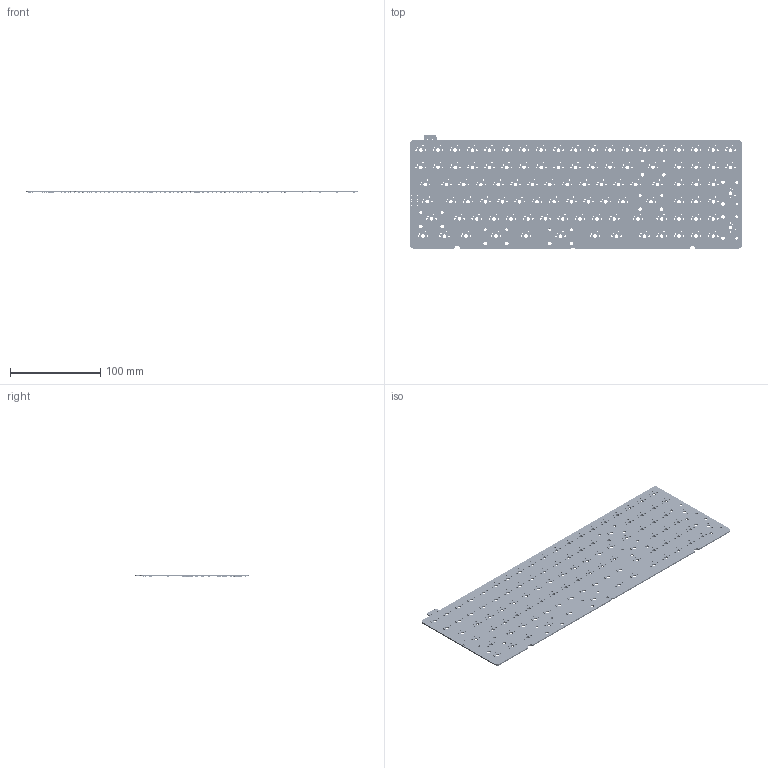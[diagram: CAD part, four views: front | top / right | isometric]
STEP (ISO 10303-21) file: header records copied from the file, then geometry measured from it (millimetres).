
FILE_DESCRIPTION(('KiCad electronic assembly'),'2;1');
FILE_NAME('v1PCB.step','2020-08-04T00:43:00',('An Author'),('A Company') ,'Open CASCADE STEP processor 6.9','KiCad to STEP converter','Unknown' );
FILE_SCHEMA(('AUTOMOTIVE_DESIGN { 1 0 10303 214 1 1 1 1 }'));
Length unit declared in the file: millimetre
Products named in the file (14): Open CASCADE STEP translator 6.9 1; QFN-48-1EP_7x7mm_P0.5mm_EP5.6x5.6mm; SOLID; R_0805_2012Metric; D_SOD-123; C_0402_1005Metric; C_0603_1608Metric; SOT-23; COMPOUND
Assembly tree (125 placements, depth 3):
  Open CASCADE STEP translator 6.9 1
    QFN-48-1EP_7x7mm_P0.5mm_EP5.6x5.6mm
      SOLID
    R_0805_2012Metric  x5
      SOLID
    D_SOD-123  x101
      SOLID
    C_0402_1005Metric  x6
      SOLID
    C_0603_1608Metric  x4
      SOLID
    SOT-23
      SOLID
    COMPOUND
Bounding box: 367.51 x 125.41 x 2.9 mm (x, y, z)
Volume: 67285.9 mm3; surface area: 93122.6 mm2
Topology: 119 solids, 119 shells, 8142 faces, 19645 edges, 11864 vertices
Faces by surface type: plane 3946, bspline 2653, cylinder 1543
Full cylindrical faces by diameter (mm): 0.4 x1, 0.65 x2, 1 x8, 1.47 x202, 1.75 x202, 3.048 x14, 3.988 x115
Entity records: 88747 total; most frequent: CARTESIAN_POINT 20315, DIRECTION 11859, LINE 6972, VECTOR 6972, ORIENTED_EDGE 6394, PCURVE 6394, DEFINITIONAL_REPRESENTATION 6394, EDGE_CURVE 3197
